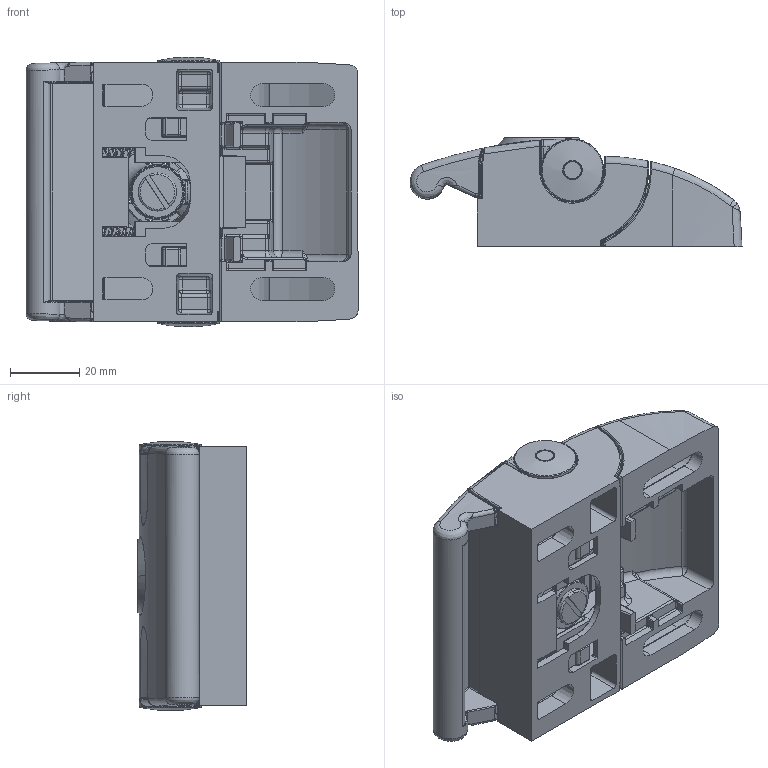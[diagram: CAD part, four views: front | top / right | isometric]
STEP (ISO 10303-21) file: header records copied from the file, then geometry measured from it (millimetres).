
FILE_DESCRIPTION (( 'STEP AP203' ), '1' );
FILE_NAME ('404022_Türschloss Kompakt verschiedenschließend.step', '2018-11-28T15:49:34', ( '' ), ( '' ), 'SwSTEP 2.0', 'SolidWorks 2017', '' );
FILE_SCHEMA (( 'CONFIG_CONTROL_DESIGN' ));
Length unit declared in the file: millimetre
Products named in the file (1): 404022_Türschloss Kompakt verschiedenschließend
Bounding box: 96.01 x 31.57 x 77.81 mm (x, y, z)
Surface area: 62102.7 mm2 (no closed solid volume)
Topology: 0 solids, 17 shells, 3047 faces, 7641 edges, 4418 vertices
Faces by surface type: cylinder 1033, plane 908, bspline 610, torus 290, sphere 178, cone 28
Entity records: 129702 total; most frequent: CARTESIAN_POINT 64265, ORIENTED_EDGE 14816, DIRECTION 12137, EDGE_CURVE 7409, AXIS2_PLACEMENT_3D 4526, VERTEX_POINT 4392, VECTOR 3085, LINE 3085
